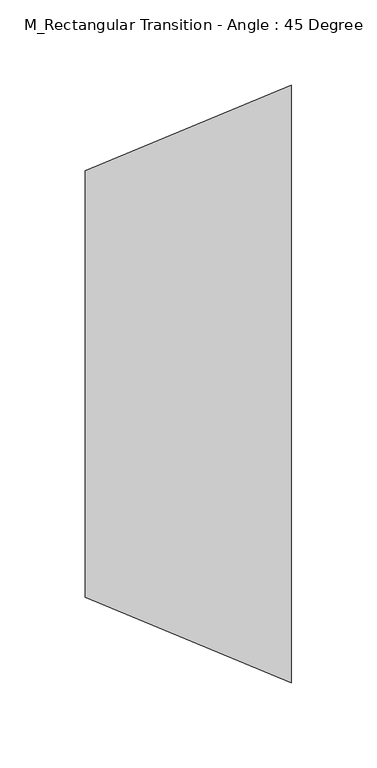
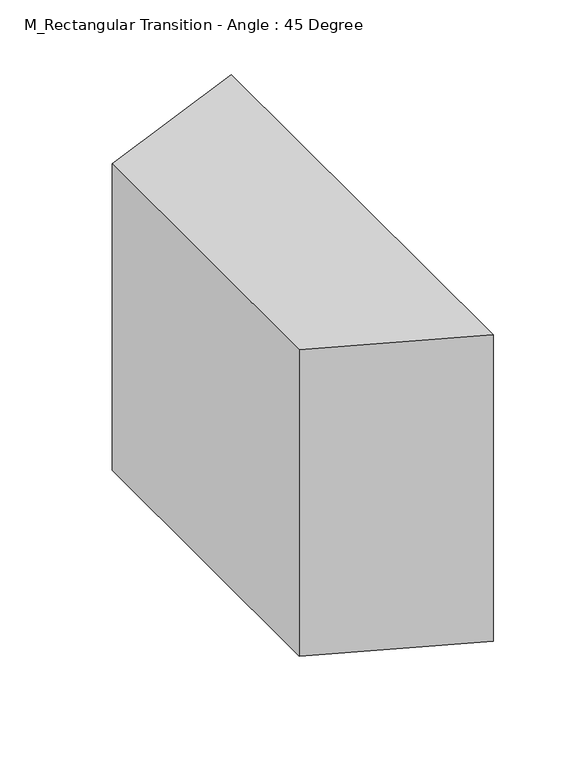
"""IFC4 building model written with IfcOpenShell, lengths in millimetres: duct fitting geometry, M_Rectangular Transition - Angle : 45 Degree."""

from ifc_helpers import new_model, si_unit, frame, origin, place, context, project, spatial, polyline, outline, extrude, source, transform, mapped, element, save


def m_rectangular_transition_angle_45_degree_857a1f8c(model_context):
    return source(origin(), model_context, "Body", "SweptSolid", [
        extrude(outline(polyline([(-125.0, 0.0), (125.0, 0.0), (175.0, -120.7106781), (-175.0, -120.7106781), (-125.0, 0.0)])), frame((0.0, 0.0, -125.0), z_axis=(-2.5806367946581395e-12, 0.0, 1.0), x_axis=(0.0, 1.0, 0.0)), (0.0, 0.0, 1.0), 250.0),
        extrude(outline(polyline([(0.0, -125.0), (0.0, 125.0), (120.7106781, 175.0), (120.7106781, -175.0), (0.0, -125.0)])), frame((0.0, 0.0, -125.0), z_axis=(0.0, 0.0, 1.0), x_axis=(1.0, 0.0, 0.0)), (0.0, 0.0, 1.0), 250.0),
        extrude(outline(polyline([(0.0, -125.0), (0.0, 125.0), (120.7106781, 175.0), (120.7106781, -175.0), (0.0, -125.0)])), frame((0.0, 0.0, -125.0), z_axis=(0.0, 0.0, 1.0), x_axis=(1.0, 0.0, 0.0)), (0.0, 0.0, 1.0), 250.0),
    ])


if __name__ == "__main__":
    model = new_model("IFC4")
    model_context = context("Model", 3, world=origin())
    ifc_project = project(units=[si_unit("LENGTHUNIT", "METRE", prefix="MILLI")], contexts=[model_context])
    site = spatial("IfcSite", under=ifc_project)
    building = spatial("IfcBuilding", under=site)
    placement = place(None, origin())
    m_rectangular_transition_angle_45_degree_shape = m_rectangular_transition_angle_45_degree_857a1f8c(model_context)
    element("IfcDuctFitting", 1, ObjectType="M_Rectangular Transition - Angle : 45 Degree", at=placement, inside=building, context=model_context, shape_type="MappedRepresentation", body=[
        mapped(m_rectangular_transition_angle_45_degree_shape, transform((0.0, 0.0, 0.0), x_axis=(1.0, 0.0, 0.0), y_axis=(0.0, 1.0, 0.0), z_axis=(0.0, 0.0, 1.0))),
    ])
    save(model, "model.ifc")
